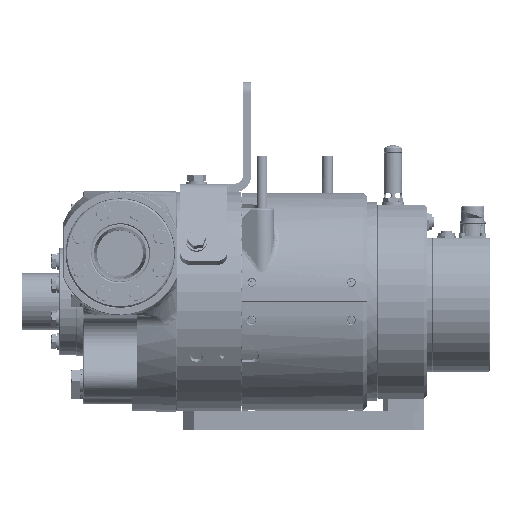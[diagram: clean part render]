
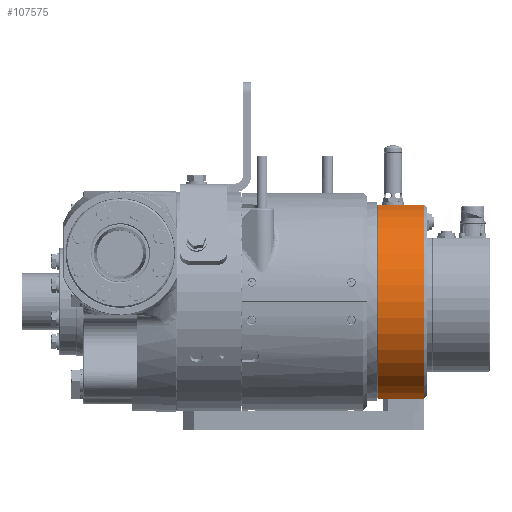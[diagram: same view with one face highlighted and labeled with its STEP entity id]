
A CAD part, front view. The second image highlights one B-rep face of the part: STEP entity #107575.
In plain terms, the highlighted cylindrical face has radius 95 mm (diameter 190 mm), a partial arc.
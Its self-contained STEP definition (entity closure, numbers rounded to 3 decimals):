
#1558=CYLINDRICAL_SURFACE('',#114627,95.);
#9148=FACE_OUTER_BOUND('',#15199,.T.);
#15199=EDGE_LOOP('',(#75791,#75792,#75793,#75794));
#22273=LINE('',#162300,#32324);
#22274=LINE('',#162318,#32325);
#32324=VECTOR('',#128765,10.);
#32325=VECTOR('',#128778,10.);
#41221=CIRCLE('',#114623,95.);
#41222=CIRCLE('',#114625,95.);
#46301=VERTEX_POINT('',#162259);
#46308=VERTEX_POINT('',#162286);
#46310=VERTEX_POINT('',#162302);
#46311=VERTEX_POINT('',#162309);
#57398=EDGE_CURVE('',#46301,#46308,#22273,.T.);
#57400=EDGE_CURVE('',#46310,#46308,#41221,.T.);
#57401=EDGE_CURVE('',#46301,#46311,#41222,.T.);
#57404=EDGE_CURVE('',#46310,#46311,#22274,.T.);
#75791=ORIENTED_EDGE('',*,*,#57398,.T.);
#75792=ORIENTED_EDGE('',*,*,#57400,.F.);
#75793=ORIENTED_EDGE('',*,*,#57404,.T.);
#75794=ORIENTED_EDGE('',*,*,#57401,.F.);
#107575=ADVANCED_FACE('',(#9148),#1558,.T.);
#114623=AXIS2_PLACEMENT_3D('',#162307,#128768,#128769);
#114625=AXIS2_PLACEMENT_3D('',#162310,#128772,#128773);
#114627=AXIS2_PLACEMENT_3D('',#162317,#128776,#128777);
#128765=DIRECTION('',(1.,0.,0.));
#128768=DIRECTION('center_axis',(1.,0.,0.));
#128769=DIRECTION('ref_axis',(0.,1.,0.));
#128772=DIRECTION('center_axis',(-1.,0.,0.));
#128773=DIRECTION('ref_axis',(0.,1.,0.));
#128776=DIRECTION('center_axis',(1.,0.,0.));
#128777=DIRECTION('ref_axis',(0.,-1.,0.));
#128778=DIRECTION('',(-1.,0.,0.));
#162259=CARTESIAN_POINT('',(190.5,-21.651,-92.5));
#162286=CARTESIAN_POINT('',(235.,-21.651,-92.5));
#162300=CARTESIAN_POINT('',(213.5,-21.651,-92.5));
#162302=CARTESIAN_POINT('',(235.,-21.651,92.5));
#162307=CARTESIAN_POINT('Origin',(235.,0.,0.));
#162309=CARTESIAN_POINT('',(190.5,-21.651,92.5));
#162310=CARTESIAN_POINT('Origin',(190.5,0.,0.));
#162317=CARTESIAN_POINT('Origin',(213.5,0.,0.));
#162318=CARTESIAN_POINT('',(213.5,-21.651,92.5));
